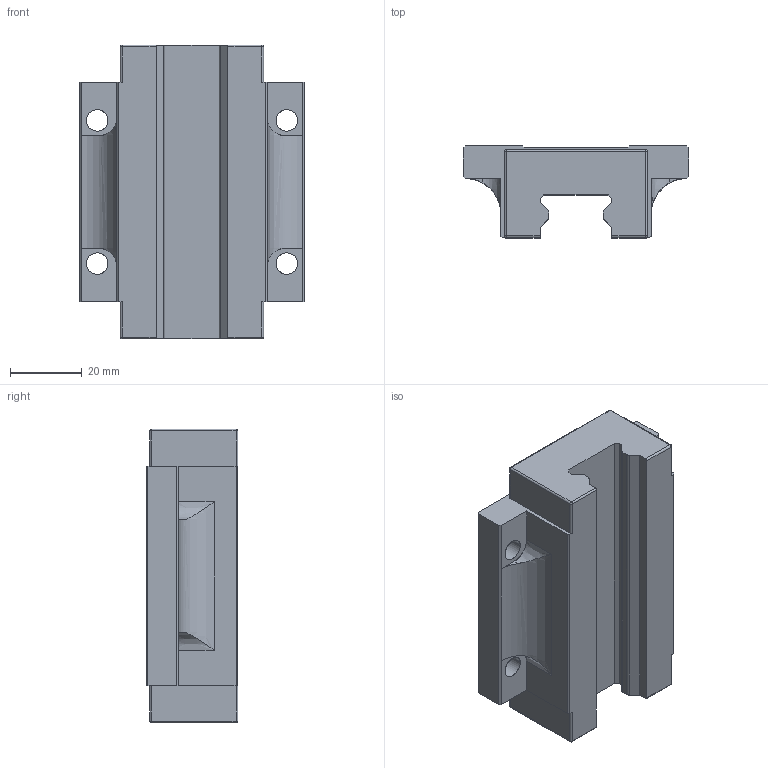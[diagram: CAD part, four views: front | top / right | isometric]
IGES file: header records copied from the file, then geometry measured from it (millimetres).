
Start section: SolidWorks IGES file using analytic representation for surfaces
Global section: file name: C:\Users\IanO\Desktop\Temp File\GENERAL\L1016_v2\L1016.F-BC_v2\L1016.F-BC_v2_20190612_IGES\L1016.F20-L-BC.igs; native system: SolidWorks 2017; preprocessor: SolidWorks 2017; author: IanO; date: 190613.152151; units: millimetre
Bounding box: 63 x 25.6 x 82.1 mm (x, y, z)
Surface area: 17838.9 mm2 (no closed solid volume)
Topology: 0 solids, 0 shells, 92 faces, 888 edges, 880 vertices
Faces by surface type: bspline 48, revolution 44
